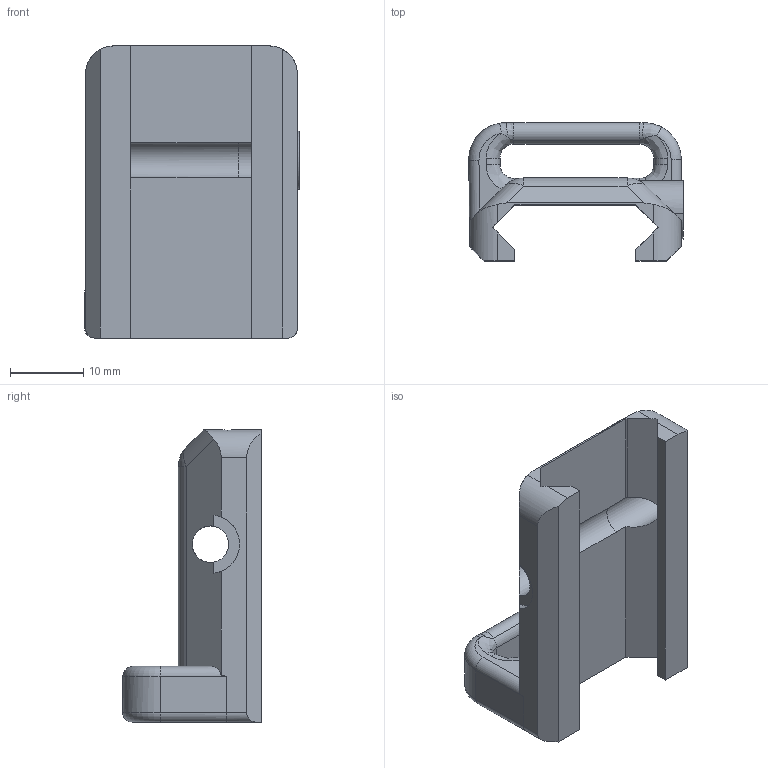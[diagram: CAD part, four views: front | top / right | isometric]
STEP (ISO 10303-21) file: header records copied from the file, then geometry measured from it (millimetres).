
FILE_DESCRIPTION(/* description */ (''),/* implementation_level */ '2;1');
FILE_NAME(/* name */ 'C:/Users/jeremy/OneDrive/Desktop/SG22 Sling Mount Release.step',/* time_stamp */ '2021-03-18T08:57:58-06:00',/* author */ (''),/* organization */ (''),/* preprocessor_version */ 'ST-DEVELOPER v18.1',/* originating_system */ 'Autodesk Translation Framework v9.10.0.1330',/* authorisation */ '');
FILE_SCHEMA (('AUTOMOTIVE_DESIGN { 1 0 10303 214 3 1 1 }'));
Length unit declared in the file: millimetre
Products named in the file (1): Brace V2
Bounding box: 29.38 x 18.98 x 40 mm (x, y, z)
Volume: 6465.8 mm3; surface area: 4679.9 mm2
Topology: 1 solids, 1 shells, 94 faces, 253 edges, 156 vertices
Faces by surface type: plane 37, cylinder 34, bspline 17, torus 4, sphere 2
Full cylindrical faces by diameter (mm): 5 x1, 5.045 x1
Entity records: 3567 total; most frequent: CARTESIAN_POINT 1216, ORIENTED_EDGE 506, DIRECTION 459, EDGE_CURVE 253, AXIS2_PLACEMENT_3D 171, VERTEX_POINT 156, LINE 117, VECTOR 117
